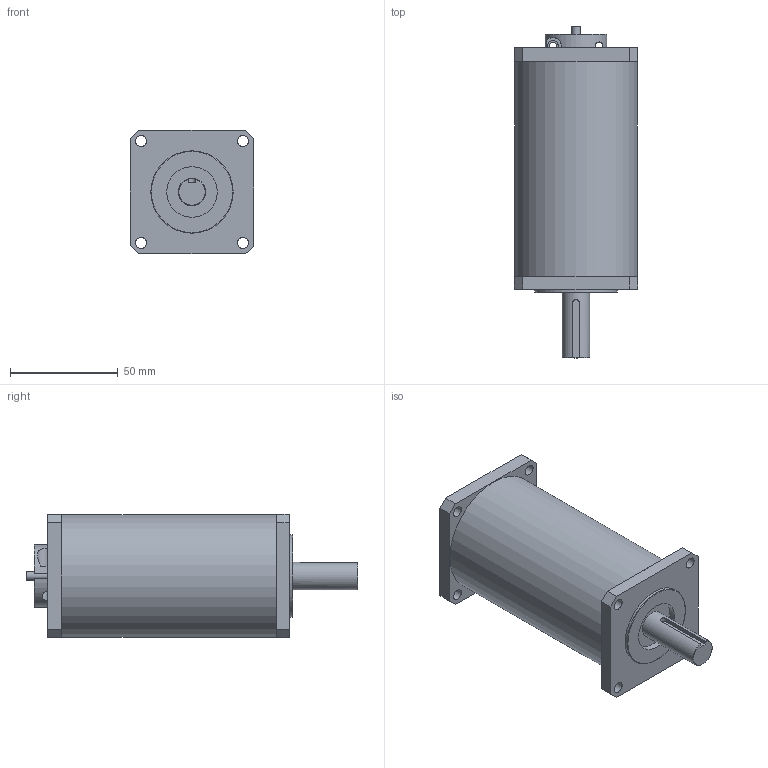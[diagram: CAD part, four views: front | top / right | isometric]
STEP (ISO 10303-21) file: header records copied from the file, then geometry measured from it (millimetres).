
FILE_DESCRIPTION( ( 'Unknown' ), '1' );
FILE_NAME( 'K:/Tegninger - Vare/Gear/HMGH/LT0134.stp', 'Unknown', ( 'Unknown' ), ( 'Unknown' ), 'PSStep 10.1', 'Unknown', ' ' );
FILE_SCHEMA( ( 'AUTOMOTIVE_DESIGN { 1 0 10303 214 1 1 1 1 }' ) );
Length unit declared in the file: millimetre
Products named in the file (6): Assem1; Planetary gear 30 scale 1; Shaft for motor; Bush for shaft; M4x12 hex
Bounding box: 57.4 x 153.9 x 57.4 mm (x, y, z)
Surface area: 80359.5 mm2
Topology: 11 solids, 11 shells, 201 faces, 468 edges, 317 vertices
Faces by surface type: plane 130, cylinder 64, torus 7
Full cylindrical faces by diameter (mm): 3.4 x4, 4 x3, 5 x4, 5.1 x16, 6.37 x2, 6.9 x3, 12.7 x4, 16 x4, 23.4 x2, 35 x2, 38.1 x2, 38.18 x2, 57 x2
Entity records: 3580 total; most frequent: CARTESIAN_POINT 637, DIRECTION 443, ORIENTED_EDGE 364, EDGE_CURVE 182, AXIS2_PLACEMENT_3D 167, EDGE_LOOP 157, VERTEX_POINT 137, FACE_OUTER_BOUND 120
